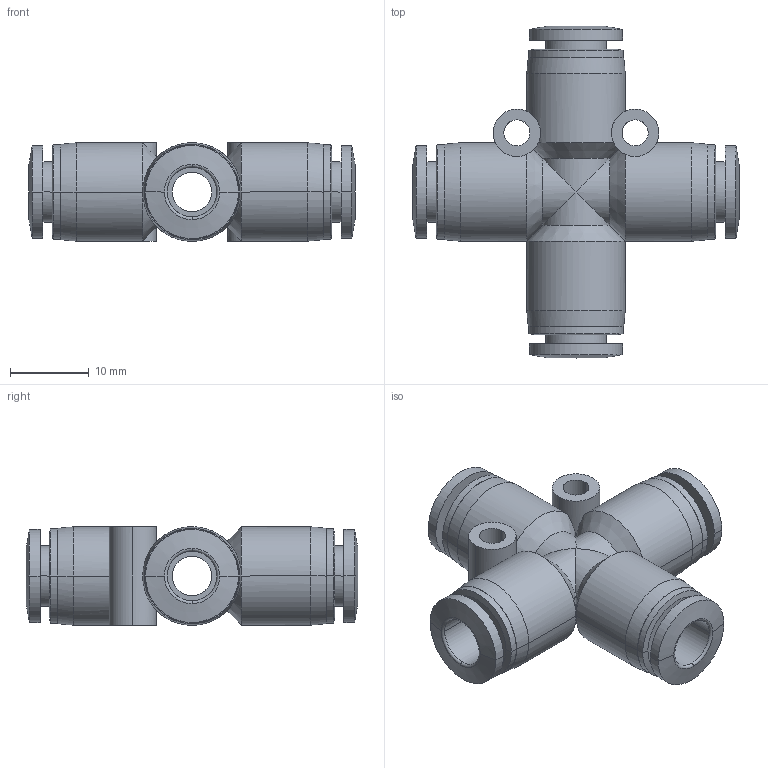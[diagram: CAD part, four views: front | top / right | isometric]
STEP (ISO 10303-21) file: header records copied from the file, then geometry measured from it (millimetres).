
FILE_DESCRIPTION (( 'STEP AP203' ), '1' );
FILE_NAME ('FX06-00.STEP', '2020-05-12T15:25:30', ( '' ), ( '' ), 'SwSTEP 2.0', 'SolidWorks 2019', '' );
FILE_SCHEMA (( 'CONFIG_CONTROL_DESIGN' ));
Length unit declared in the file: millimetre
Products named in the file (1): FX06-00
Bounding box: 41.4 x 42.1 x 12.5 mm (x, y, z)
Surface area: 5502.8 mm2 (no closed solid volume)
Topology: 0 solids, 1 shells, 124 faces, 294 edges, 174 vertices
Faces by surface type: cylinder 64, cone 32, plane 20, torus 8
Entity records: 6644 total; most frequent: CARTESIAN_POINT 4130, ORIENTED_EDGE 572, DIRECTION 348, EDGE_CURVE 294, B_SPLINE_CURVE_WITH_KNOTS 204, VERTEX_POINT 174, EDGE_LOOP 144, AXIS2_PLACEMENT_3D 133
